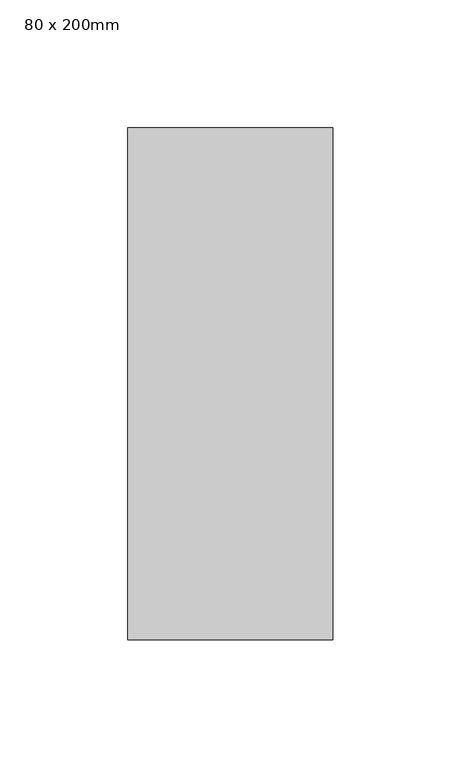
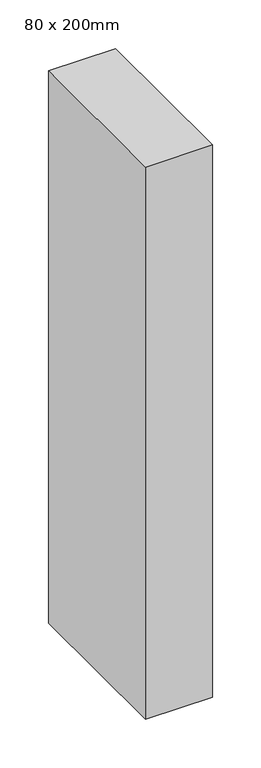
"""IFC4 building model written with IfcOpenShell, lengths in millimetres: member geometry, 矩形竖梃 : 80 x 200mm."""

from ifc_helpers import new_model, si_unit, frame, origin, place, context, project, spatial, polyline, outline, extrude, source, transform, mapped, element, save


def member_80_x_200mm_acbc830d(model_context):
    return source(origin(), model_context, "Body", "SweptSolid", [
        extrude(outline(polyline([(0.0, 100.0), (0.0, -100.0), (-80.0, -100.0), (-80.0, 100.0), (0.0, 100.0)])), frame((0.0, 0.0, -695.0), z_axis=(0.0, 0.0, 1.0), x_axis=(1.0, 0.0, 0.0)), (0.0, 0.0, 1.0), 695.0),
    ])


if __name__ == "__main__":
    model = new_model("IFC4")
    model_context = context("Model", 3, world=origin())
    ifc_project = project(units=[si_unit("LENGTHUNIT", "METRE", prefix="MILLI")], contexts=[model_context])
    site = spatial("IfcSite", under=ifc_project)
    building = spatial("IfcBuilding", under=site)
    placement = place(None, origin())
    member_80_x_200mm_shape = member_80_x_200mm_acbc830d(model_context)
    element("IfcMember", 1, ObjectType="矩形竖梃 : 80 x 200mm", at=placement, inside=building, context=model_context, shape_type="MappedRepresentation", body=[
        mapped(member_80_x_200mm_shape, transform((0.0, 0.0, 0.0), x_axis=(1.0, 0.0, 0.0), y_axis=(0.0, 1.0, 0.0), z_axis=(0.0, 0.0, 1.0))),
    ])
    save(model, "model.ifc")
